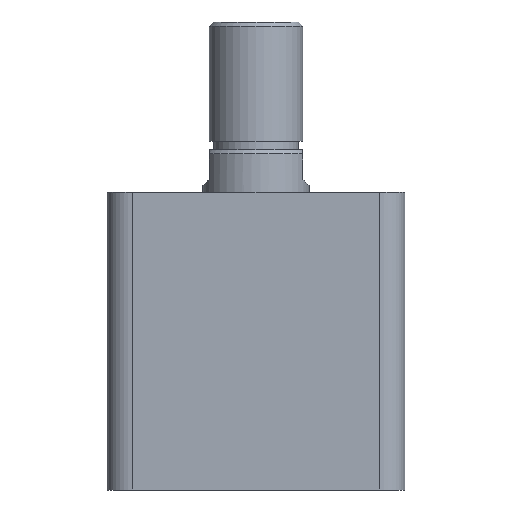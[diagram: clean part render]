
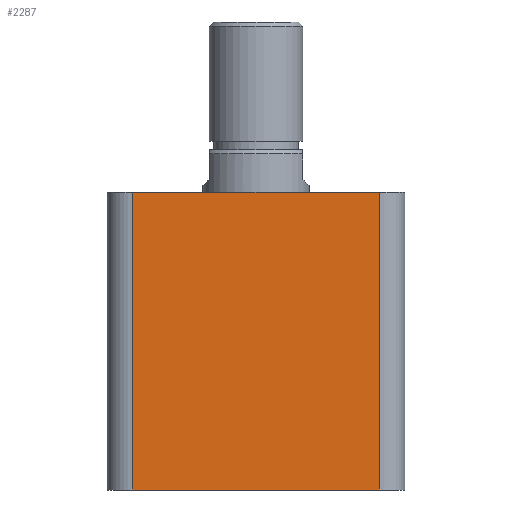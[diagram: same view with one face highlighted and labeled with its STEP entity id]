
A CAD part, front view. The second image highlights one B-rep face of the part: STEP entity #2287.
In plain terms, the highlighted planar face has unit normal (0, -1, 0).
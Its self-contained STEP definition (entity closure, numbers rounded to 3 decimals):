
#245 = ORIENTED_EDGE ( 'NONE', *, *, #1267, .T. ) ;
#247 = ORIENTED_EDGE ( 'NONE', *, *, #1266, .T. ) ;
#251 = ORIENTED_EDGE ( 'NONE', *, *, #1265, .T. ) ;
#252 = ORIENTED_EDGE ( 'NONE', *, *, #1262, .F. ) ;
#354 = EDGE_LOOP ( 'NONE', ( #252, #251, #247, #245 ) ) ;
#517 = VERTEX_POINT ( 'NONE', #1746 ) ;
#561 = VERTEX_POINT ( 'NONE', #1867 ) ;
#562 = VERTEX_POINT ( 'NONE', #1866 ) ;
#568 = VERTEX_POINT ( 'NONE', #1857 ) ;
#840 = DIRECTION ( 'NONE',  ( 0., 0., 1. ) ) ;
#841 = DIRECTION ( 'NONE',  ( 0., 1., 0. ) ) ;
#842 = PLANE ( 'NONE',  #1065 ) ;
#845 = CARTESIAN_POINT ( 'NONE',  ( -35., -35., 70. ) ) ;
#1065 = AXIS2_PLACEMENT_3D ( 'NONE', #845, #841, #840 ) ;
#1262 = EDGE_CURVE ( 'NONE', #561, #562, #1597, .T. ) ;
#1265 = EDGE_CURVE ( 'NONE', #561, #517, #1591, .T. ) ;
#1266 = EDGE_CURVE ( 'NONE', #517, #568, #1604, .T. ) ;
#1267 = EDGE_CURVE ( 'NONE', #568, #562, #1588, .T. ) ;
#1449 = FACE_OUTER_BOUND ( 'NONE', #354, .T. ) ;
#1585 = VECTOR ( 'NONE', #2065, 1000. ) ;
#1587 = VECTOR ( 'NONE', #2070, 1000. ) ;
#1588 = LINE ( 'NONE', #2068, #1585 ) ;
#1589 = VECTOR ( 'NONE', #2092, 1000. ) ;
#1591 = LINE ( 'NONE', #2093, #1589 ) ;
#1594 = VECTOR ( 'NONE', #2080, 1000. ) ;
#1597 = LINE ( 'NONE', #2081, #1594 ) ;
#1604 = LINE ( 'NONE', #2075, #1587 ) ;
#1746 = CARTESIAN_POINT ( 'NONE',  ( -29., -35., 0. ) ) ;
#1857 = CARTESIAN_POINT ( 'NONE',  ( 29., -35., 0. ) ) ;
#1866 = CARTESIAN_POINT ( 'NONE',  ( 29., -35., 70. ) ) ;
#1867 = CARTESIAN_POINT ( 'NONE',  ( -29., -35., 70. ) ) ;
#2065 = DIRECTION ( 'NONE',  ( 0., 0., 1. ) ) ;
#2068 = CARTESIAN_POINT ( 'NONE',  ( 29., -35., 70. ) ) ;
#2070 = DIRECTION ( 'NONE',  ( 1., 0., 0. ) ) ;
#2075 = CARTESIAN_POINT ( 'NONE',  ( -35., -35., 0. ) ) ;
#2080 = DIRECTION ( 'NONE',  ( 1., 0., 0. ) ) ;
#2081 = CARTESIAN_POINT ( 'NONE',  ( -35., -35., 70. ) ) ;
#2092 = DIRECTION ( 'NONE',  ( 0., 0., -1. ) ) ;
#2093 = CARTESIAN_POINT ( 'NONE',  ( -29., -35., 70. ) ) ;
#2287 = ADVANCED_FACE ( 'NONE', ( #1449 ), #842, .F. ) ;
